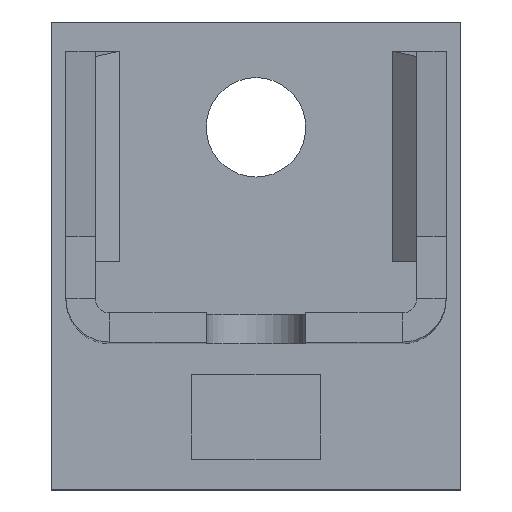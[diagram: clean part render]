
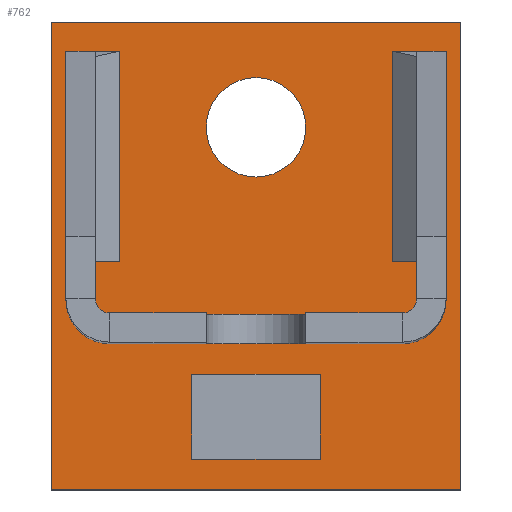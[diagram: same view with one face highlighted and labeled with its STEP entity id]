
A CAD part, top view. The second image highlights one B-rep face of the part: STEP entity #762.
In plain terms, the highlighted planar face has unit normal (0, 0, 1).
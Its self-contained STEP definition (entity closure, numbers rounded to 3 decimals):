
#24=FACE_BOUND('',#132,.T.);
#25=FACE_BOUND('',#133,.T.);
#27=CIRCLE('',#812,8.5);
#82=FACE_OUTER_BOUND('',#131,.T.);
#131=EDGE_LOOP('',(#574,#575,#576,#577));
#132=EDGE_LOOP('',(#578,#579,#580,#581));
#133=EDGE_LOOP('',(#582));
#182=LINE('',#1132,#270);
#185=LINE('',#1138,#273);
#188=LINE('',#1144,#276);
#191=LINE('',#1148,#279);
#192=LINE('',#1158,#280);
#196=LINE('',#1166,#284);
#199=LINE('',#1172,#287);
#202=LINE('',#1177,#290);
#270=VECTOR('',#907,14.5);
#273=VECTOR('',#912,22.);
#276=VECTOR('',#917,14.5);
#279=VECTOR('',#922,22.);
#280=VECTOR('',#933,80.);
#284=VECTOR('',#939,70.);
#287=VECTOR('',#944,80.);
#290=VECTOR('',#949,70.);
#352=VERTEX_POINT('',#1129);
#353=VERTEX_POINT('',#1131);
#355=VERTEX_POINT('',#1137);
#357=VERTEX_POINT('',#1143);
#358=VERTEX_POINT('',#1151);
#360=VERTEX_POINT('',#1156);
#361=VERTEX_POINT('',#1157);
#364=VERTEX_POINT('',#1165);
#366=VERTEX_POINT('',#1171);
#420=EDGE_CURVE('',#353,#352,#182,.T.);
#423=EDGE_CURVE('',#355,#353,#185,.T.);
#426=EDGE_CURVE('',#357,#355,#188,.T.);
#429=EDGE_CURVE('',#352,#357,#191,.T.);
#430=EDGE_CURVE('',#358,#358,#27,.T.);
#432=EDGE_CURVE('',#360,#361,#192,.T.);
#436=EDGE_CURVE('',#361,#364,#196,.T.);
#439=EDGE_CURVE('',#364,#366,#199,.T.);
#442=EDGE_CURVE('',#366,#360,#202,.T.);
#574=ORIENTED_EDGE('',*,*,#432,.F.);
#575=ORIENTED_EDGE('',*,*,#442,.F.);
#576=ORIENTED_EDGE('',*,*,#439,.F.);
#577=ORIENTED_EDGE('',*,*,#436,.F.);
#578=ORIENTED_EDGE('',*,*,#420,.T.);
#579=ORIENTED_EDGE('',*,*,#429,.T.);
#580=ORIENTED_EDGE('',*,*,#426,.T.);
#581=ORIENTED_EDGE('',*,*,#423,.T.);
#582=ORIENTED_EDGE('',*,*,#430,.T.);
#719=PLANE('',#818);
#762=ADVANCED_FACE('',(#82,#24,#25),#719,.T.);
#812=AXIS2_PLACEMENT_3D('',#1152,#927,#928);
#818=AXIS2_PLACEMENT_3D('',#1179,#951,#952);
#907=DIRECTION('',(0.,1.,0.));
#912=DIRECTION('',(-1.,0.,0.));
#917=DIRECTION('',(0.,-1.,0.));
#922=DIRECTION('',(1.,0.,0.));
#927=DIRECTION('center_axis',(0.,0.,-1.));
#928=DIRECTION('ref_axis',(-1.,0.,0.));
#933=DIRECTION('',(0.,-1.,0.));
#939=DIRECTION('',(-1.,0.,0.));
#944=DIRECTION('',(0.,1.,0.));
#949=DIRECTION('',(1.,0.,0.));
#951=DIRECTION('center_axis',(0.,0.,1.));
#952=DIRECTION('ref_axis',(1.,0.,0.));
#1129=CARTESIAN_POINT('',(-11.,-42.25,5.));
#1131=CARTESIAN_POINT('',(-11.,-56.75,5.));
#1132=CARTESIAN_POINT('',(-11.,-32.125,5.));
#1137=CARTESIAN_POINT('',(11.,-56.75,5.));
#1138=CARTESIAN_POINT('',(-5.5,-56.75,5.));
#1143=CARTESIAN_POINT('',(11.,-42.25,5.));
#1144=CARTESIAN_POINT('',(11.,-39.375,5.));
#1148=CARTESIAN_POINT('',(5.5,-42.25,5.));
#1151=CARTESIAN_POINT('',(8.5,0.,5.));
#1152=CARTESIAN_POINT('Origin',(0.,0.,5.));
#1156=CARTESIAN_POINT('',(35.,18.,5.));
#1157=CARTESIAN_POINT('',(35.,-62.,5.));
#1158=CARTESIAN_POINT('',(35.,18.,5.));
#1165=CARTESIAN_POINT('',(-35.,-62.,5.));
#1166=CARTESIAN_POINT('',(35.,-62.,5.));
#1171=CARTESIAN_POINT('',(-35.,18.,5.));
#1172=CARTESIAN_POINT('',(-35.,-62.,5.));
#1177=CARTESIAN_POINT('',(-35.,18.,5.));
#1179=CARTESIAN_POINT('Origin',(0.,-22.,5.));
